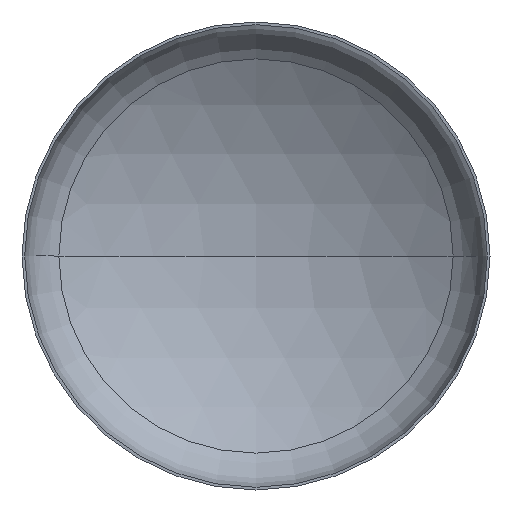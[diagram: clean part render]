
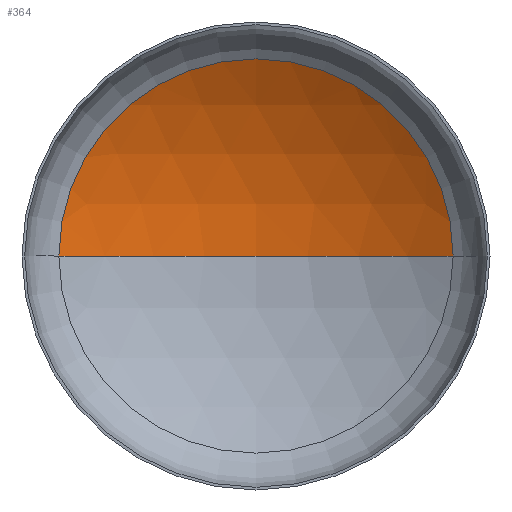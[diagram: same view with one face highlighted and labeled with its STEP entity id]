
A CAD part, front view. The second image highlights one B-rep face of the part: STEP entity #364.
In plain terms, the highlighted spherical face has radius 1920 mm.
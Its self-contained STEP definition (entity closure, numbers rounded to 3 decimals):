
#4 = AXIS2_PLACEMENT_3D ( 'NONE', #280, #301, #289 ) ;
#11 = AXIS2_PLACEMENT_3D ( 'NONE', #279, #138, #290 ) ;
#12 = ORIENTED_EDGE ( 'NONE', *, *, #122, .T. ) ;
#16 = CARTESIAN_POINT ( 'NONE',  ( 1010.787, 359.576, 0. ) ) ;
#28 = ORIENTED_EDGE ( 'NONE', *, *, #362, .F. ) ;
#47 = AXIS2_PLACEMENT_3D ( 'NONE', #240, #229, #239 ) ;
#48 = VERTEX_POINT ( 'NONE', #16 ) ;
#51 = AXIS2_PLACEMENT_3D ( 'NONE', #377, #93, #166 ) ;
#76 = CARTESIAN_POINT ( 'NONE',  ( -1010.787, 359.576, 0. ) ) ;
#77 = EDGE_CURVE ( 'NONE', #48, #105, #178, .T. ) ;
#93 = DIRECTION ( 'NONE',  ( 0., -1., 0. ) ) ;
#94 = SPHERICAL_SURFACE ( 'NONE', #4, 1920. ) ;
#105 = VERTEX_POINT ( 'NONE', #76 ) ;
#122 = EDGE_CURVE ( 'NONE', #268, #48, #300, .T. ) ;
#133 = EDGE_LOOP ( 'NONE', ( #28, #12, #143 ) ) ;
#138 = DIRECTION ( 'NONE',  ( 0., 0., 1. ) ) ;
#143 = ORIENTED_EDGE ( 'NONE', *, *, #77, .T. ) ;
#166 = DIRECTION ( 'NONE',  ( 1., 0., 0. ) ) ;
#178 = CIRCLE ( 'NONE', #51, 1010.787 ) ;
#198 = CIRCLE ( 'NONE', #11, 1920. ) ;
#229 = DIRECTION ( 'NONE',  ( 0., 0., -1. ) ) ;
#239 = DIRECTION ( 'NONE',  ( -1., 0., 0. ) ) ;
#240 = CARTESIAN_POINT ( 'NONE',  ( 0., -1272.818, 0. ) ) ;
#243 = CARTESIAN_POINT ( 'NONE',  ( 0., 647.182, 0. ) ) ;
#268 = VERTEX_POINT ( 'NONE', #243 ) ;
#270 = FACE_OUTER_BOUND ( 'NONE', #133, .T. ) ;
#279 = CARTESIAN_POINT ( 'NONE',  ( 0., -1272.818, 0. ) ) ;
#280 = CARTESIAN_POINT ( 'NONE',  ( 0., -1272.818, 0. ) ) ;
#289 = DIRECTION ( 'NONE',  ( -1., 0., 0. ) ) ;
#290 = DIRECTION ( 'NONE',  ( 1., 0., 0. ) ) ;
#300 = CIRCLE ( 'NONE', #47, 1920. ) ;
#301 = DIRECTION ( 'NONE',  ( 0., 0., -1. ) ) ;
#362 = EDGE_CURVE ( 'NONE', #268, #105, #198, .T. ) ;
#364 = ADVANCED_FACE ( 'NONE', ( #270 ), #94, .F. ) ;
#377 = CARTESIAN_POINT ( 'NONE',  ( 0., 359.576, 0. ) ) ;
